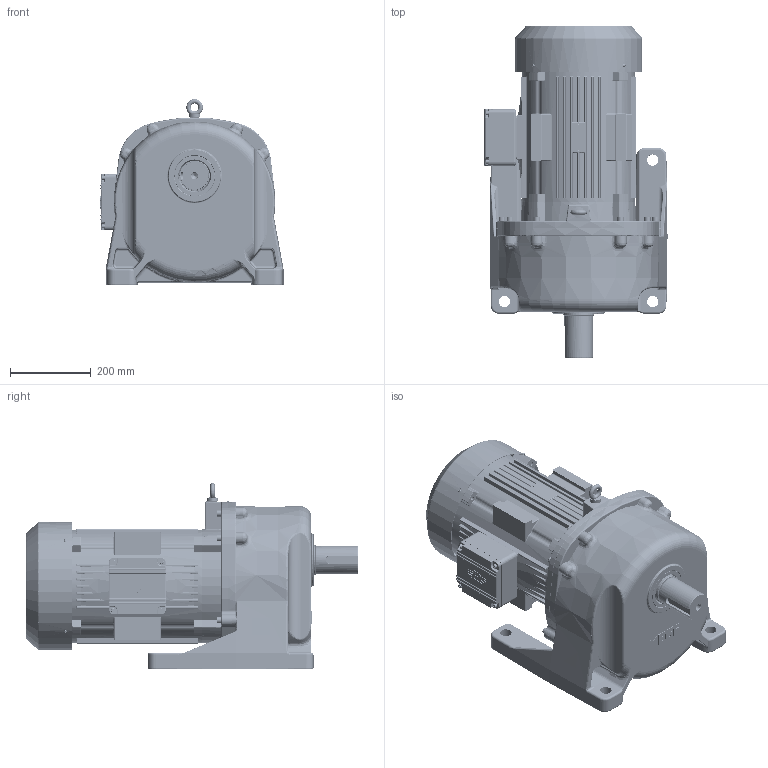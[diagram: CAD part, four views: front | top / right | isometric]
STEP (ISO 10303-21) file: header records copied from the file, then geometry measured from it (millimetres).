
FILE_DESCRIPTION(/* description */ (''),/* implementation_level */ '2;1');
FILE_NAME(/* name */ 'Z:\동력 3D 파일\PML270_15kW_3D.stp',/* time_stamp */ '2021-11-30T17:31:11+09:00',/* author */ ('jaebok'),/* organization */ (''),/* preprocessor_version */ 'ST-DEVELOPER v18.1',/* originating_system */ 'Autodesk Inventor 2022',/* authorisation */ '');
FILE_SCHEMA (('AUTOMOTIVE_DESIGN { 1 0 10303 214 3 1 1 }'));
Length unit declared in the file: millimetre
Products named in the file (1): 부품34
Bounding box: 452.9 x 821.2 x 460 mm (x, y, z)
Volume: 19436763.7 mm3; surface area: 3072953.2 mm2
Topology: 12 solids, 22 shells, 6418 faces, 16218 edges, 9764 vertices
Faces by surface type: cylinder 1850, plane 1834, bspline 1573, torus 590, sphere 326, cone 245
Full cylindrical faces by diameter (mm): 3.242 x4, 4.134 x4, 4.917 x9, 5 x16, 6 x4, 6.5 x8, 6.647 x9, 7 x4, 8 x4, 9.5 x4, 10 x18, 12 x9, 13.2 x1, 13.835 x9, 15 x1, 16 x9, 17 x8, 20 x1, 28 x5, 34 x1, 37 x1, 40 x1, 55 x1, 60 x1, 68 x2, 70 x1, 72 x1, 75 x3, 80 x2, 81 x1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
Entity records: 237353 total; most frequent: CARTESIAN_POINT 84979, ORIENTED_EDGE 31888, DIRECTION 28337, EDGE_CURVE 15944, AXIS2_PLACEMENT_3D 10786, VERTEX_POINT 9781, EDGE_LOOP 6959, LINE 6765
